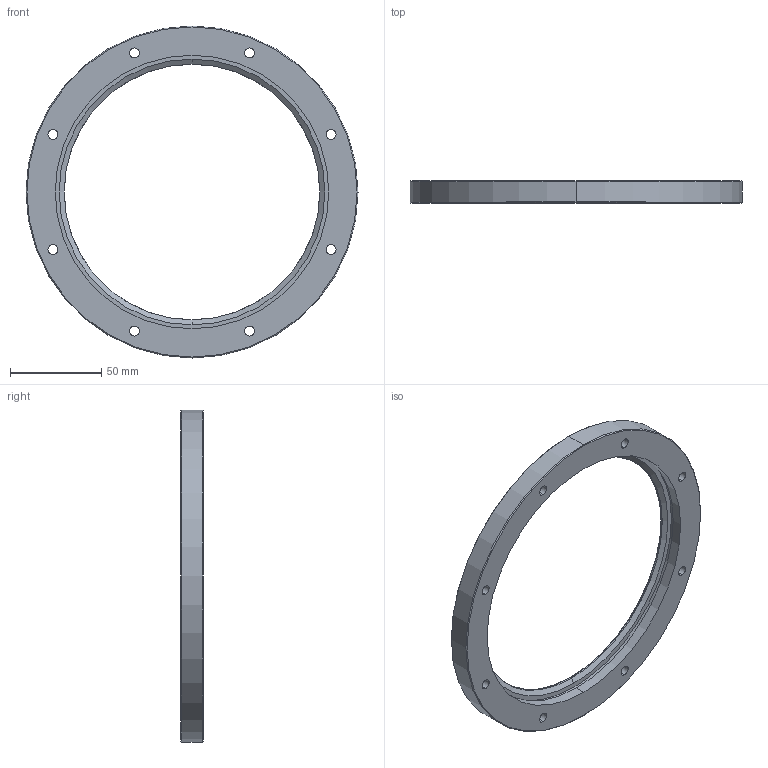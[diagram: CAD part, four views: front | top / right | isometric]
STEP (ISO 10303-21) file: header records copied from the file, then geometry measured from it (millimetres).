
FILE_DESCRIPTION(('STEP AP203'),'1');
FILE_NAME('ris_182_r360.stp','2021-08-30T05:46:06',('TraceParts'),('TraceParts S.A.'),'Spatial InterOp 3D',' ',' ');
FILE_SCHEMA(('CONFIG_CONTROL_DESIGN'));
Length unit declared in the file: millimetre
Products named in the file (1): 1
Bounding box: 182 x 12.25 x 182 mm (x, y, z)
Volume: 104642.2 mm3; surface area: 34755.6 mm2
Topology: 1 solids, 1 shells, 62 faces, 140 edges, 90 vertices
Faces by surface type: cylinder 38, plane 12, cone 8, torus 4
Entity records: 1858 total; most frequent: DIRECTION 360, CARTESIAN_POINT 293, ORIENTED_EDGE 280, AXIS2_PLACEMENT_3D 157, EDGE_CURVE 140, CIRCLE 94, EDGE_LOOP 90, VERTEX_POINT 90
